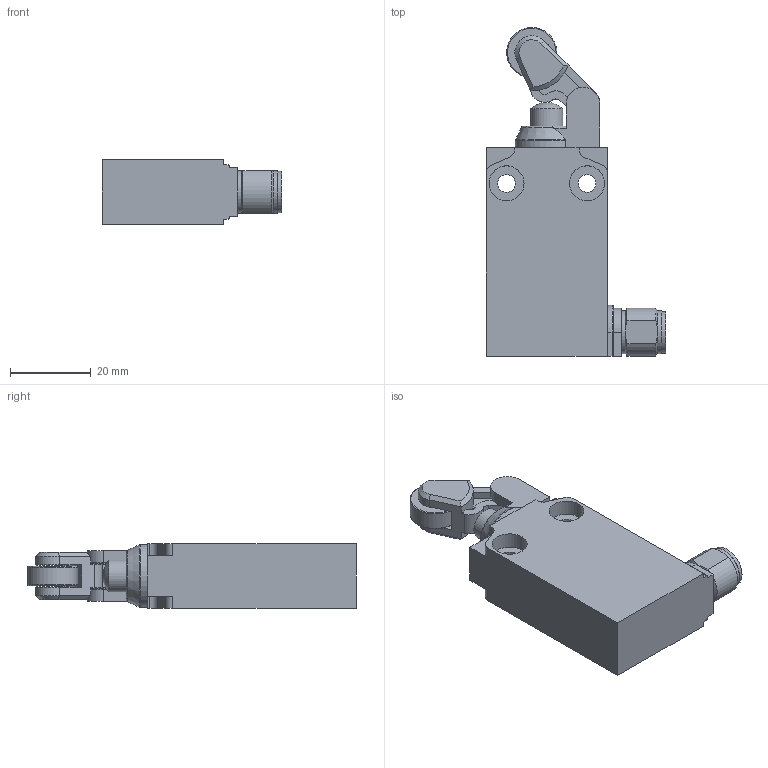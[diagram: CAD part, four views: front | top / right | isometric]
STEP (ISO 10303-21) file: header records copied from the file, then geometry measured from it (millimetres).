
FILE_DESCRIPTION(/* description */ (''),/* implementation_level */ '2;1');
FILE_NAME(/* name */ 'C:\Users\servizio.tecnico\Desktop\CADENAS\3D\EP1_STP\STP_EP1_G31M.stp',/* time_stamp */ '2017-09-04T11:19:34+02:00',/* author */ ('servizio.tecnico'),/* organization */ (''),/* preprocessor_version */ 'ST-DEVELOPER v16.1',/* originating_system */ 'Autodesk Inventor 2016',/* authorisation */ '');
FILE_SCHEMA (('AUTOMOTIVE_DESIGN { 1 0 10303 214 3 1 1 }'));
Length unit declared in the file: millimetre
Products named in the file (3): Product; EP1G31-M; BASE ASSI 
Assembly tree (2 placements, depth 3):
  BASE ASSI 
    EP1G31-M
      Product
Bounding box: 44.5 x 81.73 x 16 mm (x, y, z)
Volume: 28757.6 mm3; surface area: 10784.7 mm2
Topology: 5 solids, 5 shells, 160 faces, 403 edges, 263 vertices
Faces by surface type: plane 91, cylinder 54, cone 9, torus 5, sphere 1
Full cylindrical faces by diameter (mm): 4.4 x2, 7 x1, 7.8 x2, 7.95 x1, 8.05 x1, 8.7 x4, 10.3 x1, 10.6 x2, 12.5 x1
Entity records: 4922 total; most frequent: CARTESIAN_POINT 877, DIRECTION 821, ORIENTED_EDGE 758, EDGE_CURVE 379, AXIS2_PLACEMENT_3D 295, VERTEX_POINT 258, LINE 231, VECTOR 231
